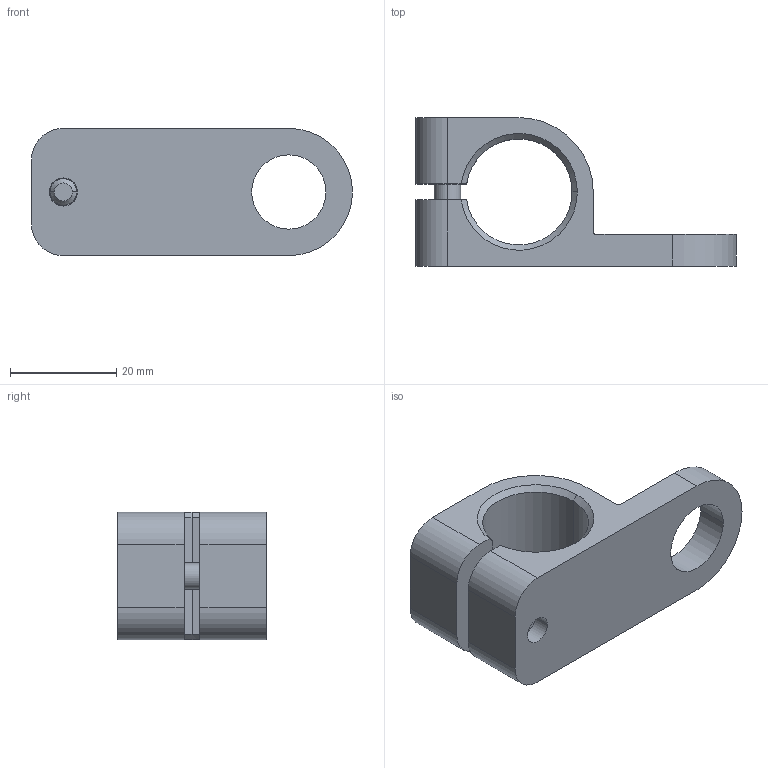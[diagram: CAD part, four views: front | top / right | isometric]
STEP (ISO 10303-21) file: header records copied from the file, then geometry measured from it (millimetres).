
FILE_DESCRIPTION (( 'STEP AP214' ), '1' );
FILE_NAME ('SCC-20M16.STEP', '2019-11-07T06:03:39', ( '微软用户' ), ( '微软中国' ), 'SwSTEP 2.0', 'SolidWorks 2016', '' );
FILE_SCHEMA (( 'AUTOMOTIVE_DESIGN' ));
Length unit declared in the file: millimetre
Products named in the file (1): SCC-20M16
Bounding box: 60.5 x 28 x 24 mm (x, y, z)
Volume: 15259.3 mm3; surface area: 7967.5 mm2
Topology: 3 solids, 3 shells, 247 faces, 709 edges, 469 vertices
Faces by surface type: plane 213, cylinder 25, cone 7, bspline 2
Entity records: 11045 total; most frequent: CARTESIAN_POINT 1573, DIRECTION 1438, ORIENTED_EDGE 1418, EDGE_CURVE 709, AXIS2_PLACEMENT_3D 491, VERTEX_POINT 469, VECTOR 456, LINE 456
